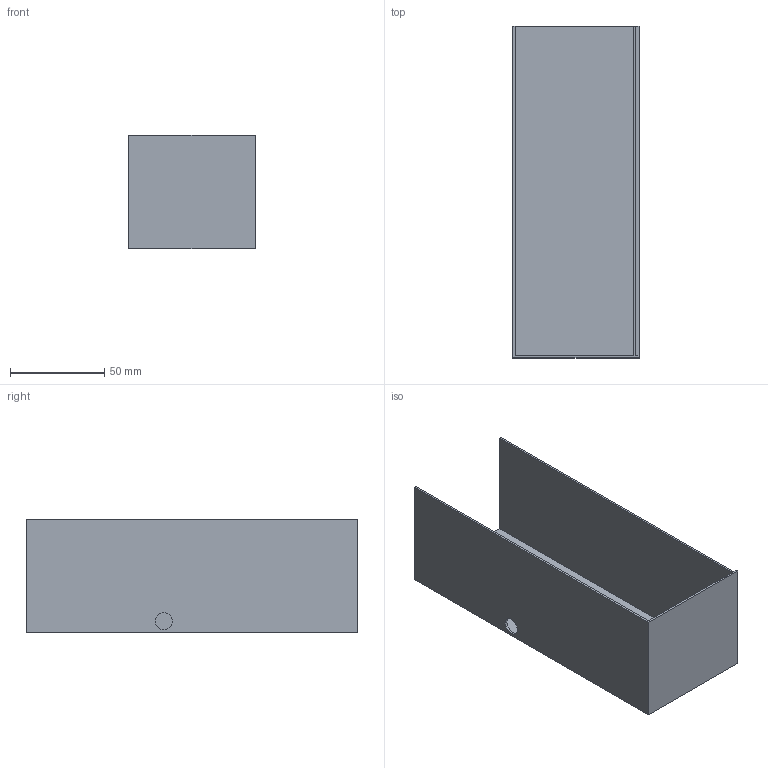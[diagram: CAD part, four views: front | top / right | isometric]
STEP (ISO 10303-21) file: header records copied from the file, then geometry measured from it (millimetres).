
FILE_DESCRIPTION(('Open CASCADE Model'),'2;1');
FILE_NAME('Open CASCADE Shape Model','2026-11-07T14:08:15',('Author'),( 'Open CASCADE'),'Open CASCADE STEP processor 7.9','Open CASCADE 7.9' ,'Unknown');
FILE_SCHEMA(('AUTOMOTIVE_DESIGN { 1 0 10303 214 1 1 1 1 }'));
Length unit declared in the file: millimetre
Products named in the file (1): Open CASCADE STEP translator 7.9 19
Bounding box: 67 x 176 x 60 mm (x, y, z)
Volume: 43469.4 mm3; surface area: 73207.2 mm2
Topology: 1 solids, 1 shells, 14 faces, 36 edges, 24 vertices
Faces by surface type: plane 13, cylinder 1
Full cylindrical faces by diameter (mm): 9 x1
Entity records: 904 total; most frequent: CARTESIAN_POINT 165, DIRECTION 132, LINE 98, VECTOR 98, ORIENTED_EDGE 72, PCURVE 72, DEFINITIONAL_REPRESENTATION 72, EDGE_CURVE 36
